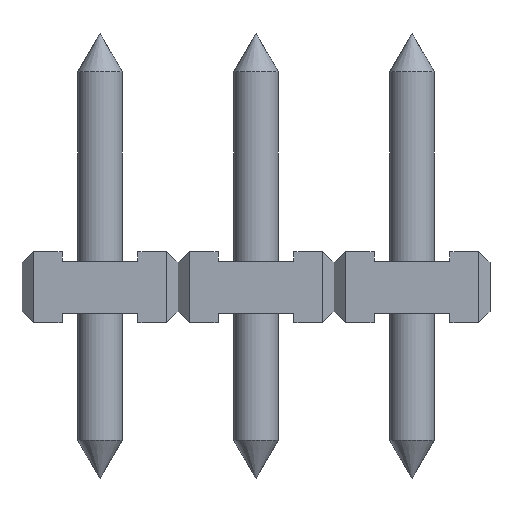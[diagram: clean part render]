
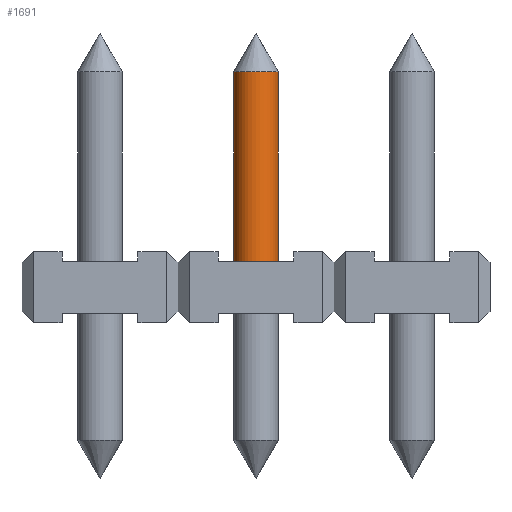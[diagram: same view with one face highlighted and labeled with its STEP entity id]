
A CAD part, front view. The second image highlights one B-rep face of the part: STEP entity #1691.
In plain terms, the highlighted cylindrical face has radius 0.5 mm (diameter 1 mm), a partial arc.
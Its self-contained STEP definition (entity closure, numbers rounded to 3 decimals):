
#375=CARTESIAN_POINT('',(-3.5,0.,0.58));
#376=DIRECTION('',(0.,0.,1.));
#377=DIRECTION('',(-1.,0.,0.));
#378=AXIS2_PLACEMENT_3D('',#375,#376,#377);
#389=DIRECTION('',(0.,0.,1.));
#390=VECTOR('',#389,4.254);
#391=CARTESIAN_POINT('',(-3.,0.,0.58));
#392=LINE('',#391,#390);
#393=DIRECTION('',(0.,0.,1.));
#394=VECTOR('',#393,4.254);
#395=CARTESIAN_POINT('',(-4.,0.,0.58));
#396=LINE('',#395,#394);
#410=CARTESIAN_POINT('',(-3.5,0.,4.834));
#411=DIRECTION('',(0.,0.,1.));
#412=DIRECTION('',(-1.,0.,0.));
#413=AXIS2_PLACEMENT_3D('',#410,#411,#412);
#1005=CARTESIAN_POINT('',(-4.,0.,4.834));
#1007=VERTEX_POINT('',#1005);
#1009=CARTESIAN_POINT('',(-3.,0.,4.834));
#1010=VERTEX_POINT('',#1009);
#1017=CARTESIAN_POINT('',(-4.,0.,0.58));
#1018=CARTESIAN_POINT('',(-3.,0.,0.58));
#1019=VERTEX_POINT('',#1017);
#1020=VERTEX_POINT('',#1018);
#1677=CARTESIAN_POINT('',(-3.5,0.,-4.8));
#1678=DIRECTION('',(0.,0.,1.));
#1679=DIRECTION('',(-1.,0.,0.));
#1680=AXIS2_PLACEMENT_3D('',#1677,#1678,#1679);
#1681=CYLINDRICAL_SURFACE('',#1680,0.5);
#1682=ORIENTED_EDGE('',*,*,#1658,.F.);
#1684=ORIENTED_EDGE('',*,*,#1683,.T.);
#1686=ORIENTED_EDGE('',*,*,#1685,.T.);
#1688=ORIENTED_EDGE('',*,*,#1687,.F.);
#1689=EDGE_LOOP('',(#1682,#1684,#1686,#1688));
#1690=FACE_OUTER_BOUND('',#1689,.F.);
#1691=ADVANCED_FACE('',(#1690),#1681,.T.);
#379=CIRCLE('',#378,0.5);
#414=CIRCLE('',#413,0.5);
#1658=EDGE_CURVE('',#1019,#1020,#379,.T.);
#1683=EDGE_CURVE('',#1019,#1007,#396,.T.);
#1685=EDGE_CURVE('',#1007,#1010,#414,.T.);
#1687=EDGE_CURVE('',#1020,#1010,#392,.T.);
